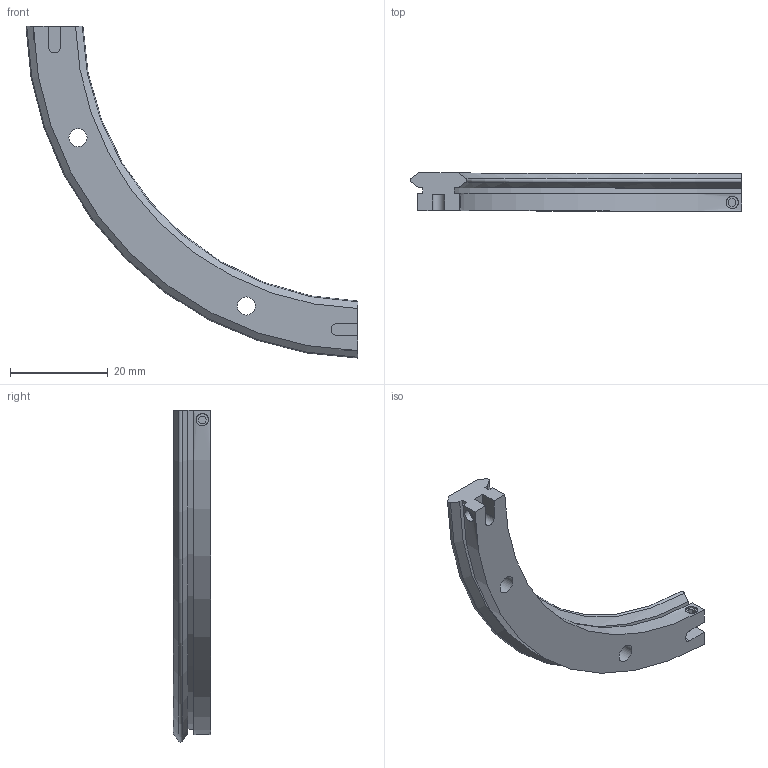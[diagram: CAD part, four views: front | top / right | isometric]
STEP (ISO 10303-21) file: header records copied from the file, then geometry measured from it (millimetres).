
FILE_DESCRIPTION( ( 'STEP AP203' ), '1' );
FILE_NAME( 'p:/temp/worker_24/temp/exporttempdir_412_763_NAZUR/format_0/TR12 127 R90.stp', '2021-09-17T07:37:54', ( 'License CC BY-ND 4.0' ), ( 'CADENAS' ), ' ', 'PARTsolutions', ' ' );
FILE_SCHEMA( ( 'CONFIG_CONTROL_DESIGN' ) );
Length unit declared in the file: millimetre
Products named in the file (1): _TR12 127 R90
Bounding box: 67.8 x 7.7 x 67.8 mm (x, y, z)
Volume: 6220.5 mm3; surface area: 4249.8 mm2
Topology: 1 solids, 1 shells, 68 faces, 170 edges, 114 vertices
Faces by surface type: plane 48, cylinder 14, cone 4, torus 2
Full cylindrical faces by diameter (mm): 2.5 x4, 3.7 x2, 6 x2
Entity records: 2190 total; most frequent: CARTESIAN_POINT 547, ORIENTED_EDGE 320, DIRECTION 314, EDGE_CURVE 160, VERTEX_POINT 112, LINE 112, VECTOR 112, AXIS2_PLACEMENT_3D 101
